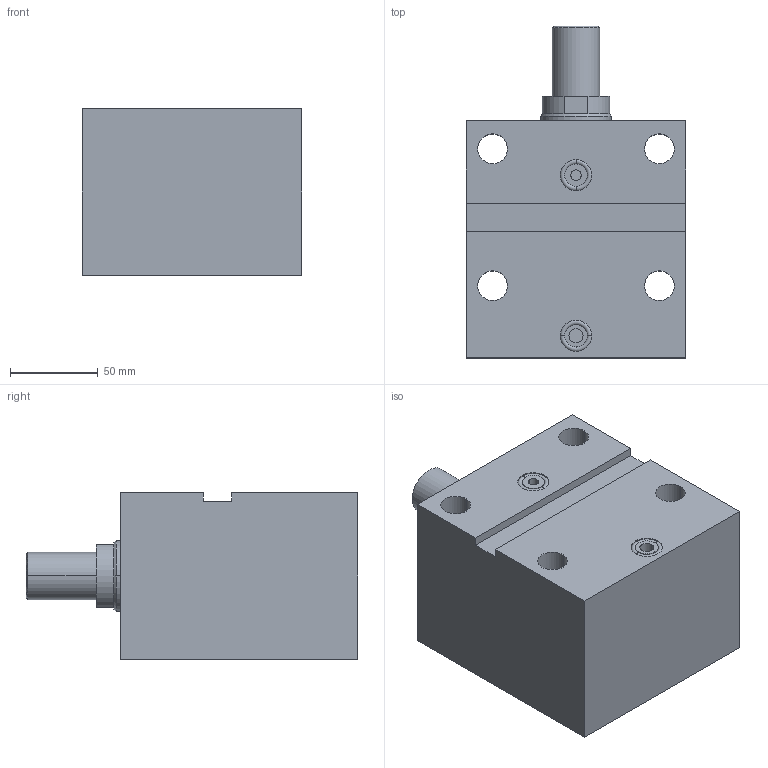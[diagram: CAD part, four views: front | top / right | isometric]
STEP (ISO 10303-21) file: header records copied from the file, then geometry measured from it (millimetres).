
FILE_DESCRIPTION (( 'STEP AP203' ), '1' );
FILE_NAME ('GERMA_Blockzylinder_603-063-063-A.STEP', '2016-01-24T17:51:57', ( '' ), ( '' ), 'SwSTEP 2.0', 'SolidWorks 2015', '' );
FILE_SCHEMA (( 'CONFIG_CONTROL_DESIGN' ));
Length unit declared in the file: millimetre
Products named in the file (3): GERMA_Blockzylinder_603-063-063-A; Kolben 60x-063_Kolben DU.63-Hub63-AG; GH-600-063_GH-603-063-063
Assembly tree (2 placements, depth 2):
  GERMA_Blockzylinder_603-063-063-A
    GH-600-063_GH-603-063-063
    Kolben 60x-063_Kolben DU.63-Hub63-AG
Bounding box: 125 x 189 x 95 mm (x, y, z)
Volume: 1427627.1 mm3; surface area: 157597.3 mm2
Topology: 2 solids, 2 shells, 81 faces, 178 edges, 109 vertices
Faces by surface type: cylinder 39, plane 26, cone 12, torus 4
Entity records: 2534 total; most frequent: DIRECTION 439, CARTESIAN_POINT 369, ORIENTED_EDGE 348, AXIS2_PLACEMENT_3D 179, EDGE_CURVE 174, VERTEX_POINT 109, EDGE_LOOP 101, CIRCLE 93
